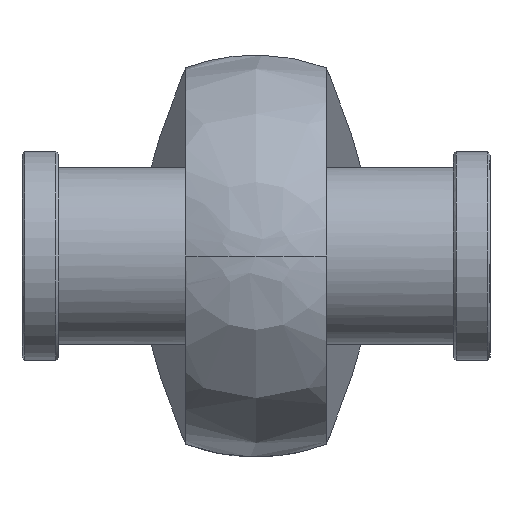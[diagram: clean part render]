
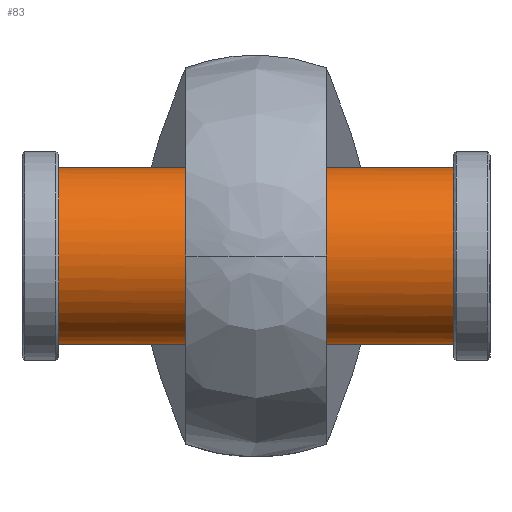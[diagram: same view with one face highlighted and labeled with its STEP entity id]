
A CAD part, left-side view. The second image highlights one B-rep face of the part: STEP entity #83.
In plain terms, the highlighted cylindrical face has radius 17 mm (diameter 34 mm), a full revolution.
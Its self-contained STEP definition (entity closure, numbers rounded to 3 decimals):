
#83=ADVANCED_FACE('',(#157),#1209,.T.);
#157=FACE_OUTER_BOUND('',#238,.T.);
#238=EDGE_LOOP('',(#506,#507,#508,#509));
#506=ORIENTED_EDGE('',*,*,#772,.T.);
#507=ORIENTED_EDGE('',*,*,#774,.T.);
#508=ORIENTED_EDGE('',*,*,#773,.T.);
#509=ORIENTED_EDGE('',*,*,#774,.F.);
#772=EDGE_CURVE('',#1124,#1124,#980,.T.);
#773=EDGE_CURVE('',#1125,#1125,#981,.T.);
#774=EDGE_CURVE('',#1124,#1125,#894,.T.);
#894=B_SPLINE_CURVE_WITH_KNOTS('',1,(#2243,#2244),.UNSPECIFIED.,.F.,.F.,
(2,2),(7.687,83.362),.UNSPECIFIED.);
#980=(
BOUNDED_CURVE()
B_SPLINE_CURVE(2,(#2225,#2226,#2227,#2228,#2229,#2230,#2231,#2232,#2233),
 .UNSPECIFIED.,.T.,.F.)
B_SPLINE_CURVE_WITH_KNOTS((3,2,2,2,3),(0.,26.704,53.407,
80.111,106.814),.UNSPECIFIED.)
CURVE()
GEOMETRIC_REPRESENTATION_ITEM()
RATIONAL_B_SPLINE_CURVE((1.,0.707,1.,0.707,1.,0.707,
1.,0.707,1.))
REPRESENTATION_ITEM('')
);
#981=(
BOUNDED_CURVE()
B_SPLINE_CURVE(2,(#2234,#2235,#2236,#2237,#2238,#2239,#2240,#2241,#2242),
 .UNSPECIFIED.,.T.,.F.)
B_SPLINE_CURVE_WITH_KNOTS((3,2,2,2,3),(0.,26.704,53.407,
80.111,106.814),.UNSPECIFIED.)
CURVE()
GEOMETRIC_REPRESENTATION_ITEM()
RATIONAL_B_SPLINE_CURVE((1.,0.707,1.,0.707,1.,0.707,
1.,0.707,1.))
REPRESENTATION_ITEM('')
);
#1124=VERTEX_POINT('',#2177);
#1125=VERTEX_POINT('',#2178);
#1209=CYLINDRICAL_SURFACE('',#1361,17.);
#1361=AXIS2_PLACEMENT_3D('',#2167,#1407,$);
#1407=DIRECTION('',(0.,-1.,0.));
#2167=CARTESIAN_POINT('',(0.,0.,0.));
#2177=CARTESIAN_POINT('',(17.,37.837,0.));
#2178=CARTESIAN_POINT('',(17.,-37.837,0.));
#2225=CARTESIAN_POINT('',(17.,37.837,0.));
#2226=CARTESIAN_POINT('',(17.,37.837,17.));
#2227=CARTESIAN_POINT('',(0.,37.837,17.));
#2228=CARTESIAN_POINT('',(-17.,37.837,17.));
#2229=CARTESIAN_POINT('',(-17.,37.837,0.));
#2230=CARTESIAN_POINT('',(-17.,37.837,-17.));
#2231=CARTESIAN_POINT('',(0.,37.837,-17.));
#2232=CARTESIAN_POINT('',(17.,37.837,-17.));
#2233=CARTESIAN_POINT('',(17.,37.837,0.));
#2234=CARTESIAN_POINT('',(17.,-37.837,0.));
#2235=CARTESIAN_POINT('',(17.,-37.837,-17.));
#2236=CARTESIAN_POINT('',(0.,-37.837,-17.));
#2237=CARTESIAN_POINT('',(-17.,-37.837,-17.));
#2238=CARTESIAN_POINT('',(-17.,-37.837,0.));
#2239=CARTESIAN_POINT('',(-17.,-37.837,17.));
#2240=CARTESIAN_POINT('',(0.,-37.837,17.));
#2241=CARTESIAN_POINT('',(17.,-37.837,17.));
#2242=CARTESIAN_POINT('',(17.,-37.837,0.));
#2243=CARTESIAN_POINT('',(17.,37.837,0.));
#2244=CARTESIAN_POINT('',(17.,-37.837,0.));
